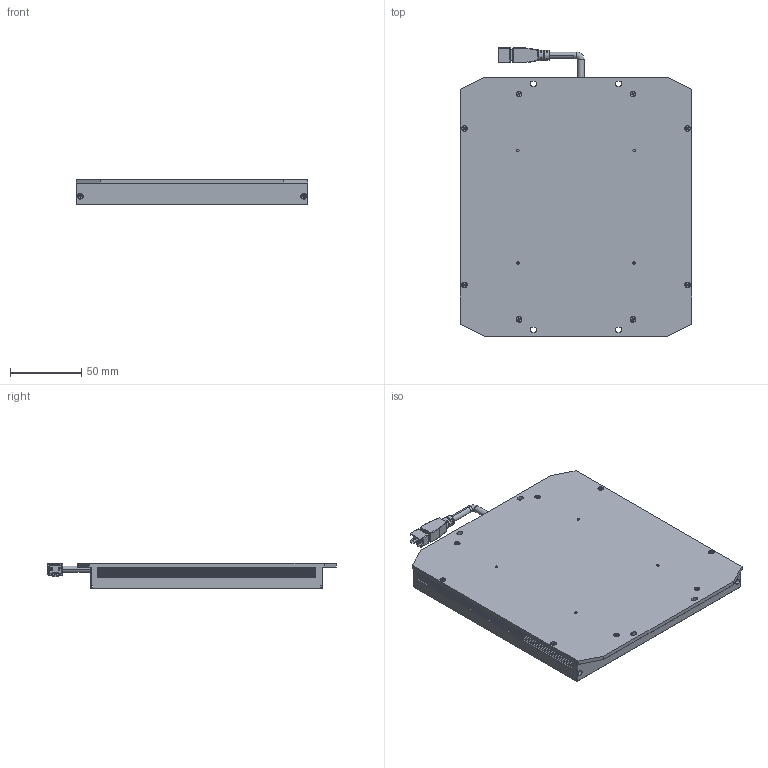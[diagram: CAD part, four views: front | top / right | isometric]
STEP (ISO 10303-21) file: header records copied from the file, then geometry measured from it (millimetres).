
FILE_DESCRIPTION((''),'2;1');
FILE_NAME('PRT0003','2022-11-04T18:12:09',('lizhoupeng'),(''),'CREO PARAMETRIC BY PTC INC, 2020044','CREO PARAMETRIC BY PTC INC, 2020044','');
FILE_SCHEMA(('CONFIG_CONTROL_DESIGN'));
Length unit declared in the file: millimetre
Products named in the file (1): PRT0003
Bounding box: 163 x 202.75 x 18 mm (x, y, z)
Volume: 487514.9 mm3; surface area: 76879.4 mm2
Topology: 1 solids, 38 shells, 1285 faces, 3056 edges, 1858 vertices
Faces by surface type: plane 775, cylinder 338, cone 108, torus 48, sphere 8, bspline 8
Entity records: 37103 total; most frequent: CARTESIAN_POINT 7369, DIRECTION 6216, ORIENTED_EDGE 6072, EDGE_CURVE 3036, AXIS2_PLACEMENT_3D 2114, VECTOR 1988, LINE 1988, VERTEX_POINT 1858
